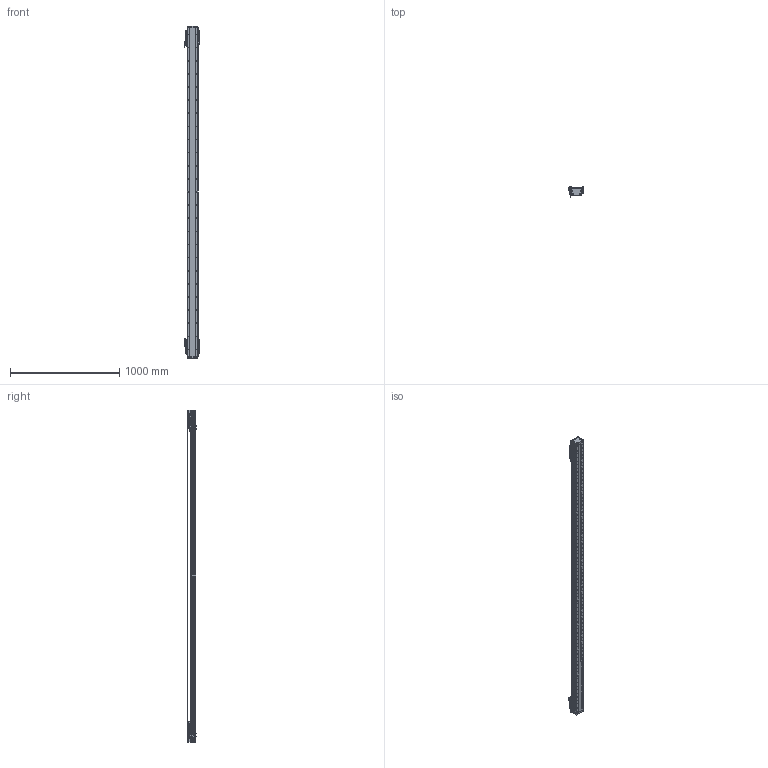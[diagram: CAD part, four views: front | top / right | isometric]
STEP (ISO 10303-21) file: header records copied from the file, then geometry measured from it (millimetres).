
FILE_DESCRIPTION (( 'STEP AP203' ), '1' );
FILE_NAME ('DA-B95-2-B15-T2660-C010-0.2 直线电机.STEP', '2023-05-06T06:41:45', ( '微软用户' ), ( '微软中国' ), 'SwSTEP 2.0', 'SolidWorks 2019', '' );
FILE_SCHEMA (( 'CONFIG_CONTROL_DESIGN' ));
Length unit declared in the file: millimetre
Products named in the file (34): 复件 DA95-B15-YB-B-00 压板B^66245-BU95-V 滚珠滑台; 葩璃 BKMA01-W060-TRL^DA-A95-B15-T-C010-0.2-N 眻盄萇儂; 葩璃 DA95-GT-T-00^IU-BU95-L 菁釱絳寢_DA95; IU-BU95-L-00 菁釱_L3000; 葩璃 DA95-B15-DP--B-00 菜えB^66245-BU95-V 幗紩賑怢; 复件 DA95-MFP-01 密封片^66245-BU95-V 滚珠滑台; DA95-HXJ-00 缓冲橡胶^DA-A95-B15-T-C010-0.2-N 直线电机; 66245-BU95-V 幗紩賑怢; DA-A95-GYP-00 光电感应片^DA-A95-B15-T-C010-0.2-N 直线电机; 复件 DA95-DK-00 挡块^66245-BU95-V 滚珠滑台; 葩璃 PM-Y45^DA-A95-B15-T-C010-0.2-N 眻盄萇儂; 复件 六角薄螺母 M3^DA-A95-B15-T-C010-0.2-N 直线电机_GB_FASTENER_NUT_STNAB M3-C; 葩璃 DA95-B15-DP-A-00 菜えA^66245-BU95-V 幗紩賑怢; 复件 DA95-B15-YB-A-00 压板A^66245-BU95-V 滚珠滑台; B15 XD-U-02L ｴﾅﾕ､ｳﾟ^DA-A95-B15-T-C010-0.2-N ﾖｱﾏﾟｵ扈銈XD-U-02L; 复件 66245-BU95-HT-V-01 滑动台板^66245-BU95-V-00 一体化滑动台板; PM-T45 光电开关^DA-A95-B15-T-C010-0.2-N 直线电机; 复件 DA95-B15 钢带盖板^DA-A95-B15-T-C010-0.2-N 直线电机; DA-B95-2-B15-T2660-C010-0.2 眻盄萇儂; 复件 复件 18252-0001-002-00 钢带垫块^DA-A95-B15-T-C010-0.2-N 直线电机; 复件 DKW-HXJ-JY-00 缓冲橡胶^DA-A95-B15-T-C010-0.2-N 直线电机; 复件 DA95-DB-00  挡板^66245-BU95-V 滚珠滑台; IU-BU95-L 菁釱絳寢; 葩璃 BKM015-W060-C1-TP-DA-0.2^DA-A95-B15-T-C010-0.2-N 眻盄萇儂; 复件 复件 18252-0001-003-00 钢带拉块^DA-A95-B15-T-C010-0.2-N 直线电机; 复件 DKW-KGZ-ZJ-00 中间光电开关支架^DA-A95-B15-T-C010-0.2-N 直线电机; LMDK-2-R001-V5-L02-C1-F00，0.2M 读数头^DA-A95-B15-T-C010-0.2-N 直线电机_DMA-010-0.2; 复件 DA95-HK-GT-00 滑块钢轨^66245-BU95-V-00 一体化滑动台板; 66245-BU95-V-00 珨极趙賑雄怢啣; 复件 复件 18252-0001-004-00 钢带端盖^DA-A95-B15-T-C010-0.2-N 直线电机; 复件 DKW-GYP-ZJ-00 中间光电感应片^DA-A95-B15-T-C010-0.2-N 直线电机; 复件 纯铜油杯 6x6mm^66245-BU95-V 滚珠滑台
Assembly tree (80 placements, depth 4):
  DA-B95-2-B15-T2660-C010-0.2 眻盄萇儂
    IU-BU95-L 菁釱絳寢
      IU-BU95-L-00 菁釱_L3000
      葩璃 DA95-GT-T-00^IU-BU95-L 菁釱絳寢_DA95  x2
    66245-BU95-V 幗紩賑怢
      66245-BU95-V-00 珨极趙賑雄怢啣
        复件 66245-BU95-HT-V-01 滑动台板^66245-BU95-V-00 一体化滑动台板
        复件 DA95-HK-GT-00 滑块钢轨^66245-BU95-V-00 一体化滑动台板  x2
      葩璃 DA95-B15-DP-A-00 菜えA^66245-BU95-V 幗紩賑怢
      复件 DA95-B15-YB-A-00 压板A^66245-BU95-V 滚珠滑台
      复件 DA95-B15-YB-B-00 压板B^66245-BU95-V 滚珠滑台
      复件 DA95-DB-00  挡板^66245-BU95-V 滚珠滑台  x4
      复件 DA95-DK-00 挡块^66245-BU95-V 滚珠滑台  x2
      复件 DA95-MFP-01 密封片^66245-BU95-V 滚珠滑台  x4
      复件 纯铜油杯 6x6mm^66245-BU95-V 滚珠滑台  x2
      葩璃 DA95-B15-DP--B-00 菜えB^66245-BU95-V 幗紩賑怢
    66245-BU95-V 幗紩賑怢
      66245-BU95-V-00 珨极趙賑雄怢啣
        复件 66245-BU95-HT-V-01 滑动台板^66245-BU95-V-00 一体化滑动台板
        复件 DA95-HK-GT-00 滑块钢轨^66245-BU95-V-00 一体化滑动台板  x2
      葩璃 DA95-B15-DP-A-00 菜えA^66245-BU95-V 幗紩賑怢
      复件 DA95-B15-YB-A-00 压板A^66245-BU95-V 滚珠滑台
      复件 DA95-B15-YB-B-00 压板B^66245-BU95-V 滚珠滑台
      复件 DA95-DB-00  挡板^66245-BU95-V 滚珠滑台  x4
      复件 DA95-DK-00 挡块^66245-BU95-V 滚珠滑台  x2
      复件 DA95-MFP-01 密封片^66245-BU95-V 滚珠滑台  x4
      复件 纯铜油杯 6x6mm^66245-BU95-V 滚珠滑台  x2
      葩璃 DA95-B15-DP--B-00 菜えB^66245-BU95-V 幗紩賑怢
    DA-A95-GYP-00 光电感应片^DA-A95-B15-T-C010-0.2-N 直线电机  x2
    LMDK-2-R001-V5-L02-C1-F00，0.2M 读数头^DA-A95-B15-T-C010-0.2-N 直线电机_DMA-010-0.2  x2
    复件 DKW-KGZ-ZJ-00 中间光电开关支架^DA-A95-B15-T-C010-0.2-N 直线电机
    葩璃 PM-Y45^DA-A95-B15-T-C010-0.2-N 眻盄萇儂
    复件 DKW-GYP-ZJ-00 中间光电感应片^DA-A95-B15-T-C010-0.2-N 直线电机
    葩璃 BKM015-W060-C1-TP-DA-0.2^DA-A95-B15-T-C010-0.2-N 眻盄萇儂  x2
    复件 DKW-HXJ-JY-00 缓冲橡胶^DA-A95-B15-T-C010-0.2-N 直线电机  x2
    PM-T45 光电开关^DA-A95-B15-T-C010-0.2-N 直线电机  x4
    B15 XD-U-02L ｴﾅﾕ､ｳﾟ^DA-A95-B15-T-C010-0.2-N ﾖｱﾏﾟｵ扈銈XD-U-02L
    复件 复件 18252-0001-003-00 钢带拉块^DA-A95-B15-T-C010-0.2-N 直线电机  x2
    复件 复件 18252-0001-002-00 钢带垫块^DA-A95-B15-T-C010-0.2-N 直线电机  x2
    复件 复件 18252-0001-004-00 钢带端盖^DA-A95-B15-T-C010-0.2-N 直线电机  x2
    复件 DA95-B15 钢带盖板^DA-A95-B15-T-C010-0.2-N 直线电机
    DA95-HXJ-00 缓冲橡胶^DA-A95-B15-T-C010-0.2-N 直线电机  x4
    葩璃 BKMA01-W060-TRL^DA-A95-B15-T-C010-0.2-N 眻盄萇儂
    复件 六角薄螺母 M3^DA-A95-B15-T-C010-0.2-N 直线电机_GB_FASTENER_NUT_STNAB M3-C  x6
Bounding box: 145.4 x 90.2 x 3036 mm (x, y, z)
Volume: 9625497.9 mm3; surface area: 3207512.7 mm2
Topology: 75 solids, 93 shells, 4412 faces, 12604 edges, 8015 vertices
Faces by surface type: cylinder 2317, plane 1563, cone 464, torus 64, sphere 4
Entity records: 111668 total; most frequent: CARTESIAN_POINT 30018, ORIENTED_EDGE 16566, DIRECTION 15848, EDGE_CURVE 8283, AXIS2_PLACEMENT_3D 6053, VERTEX_POINT 5417, LINE 3742, VECTOR 3742
